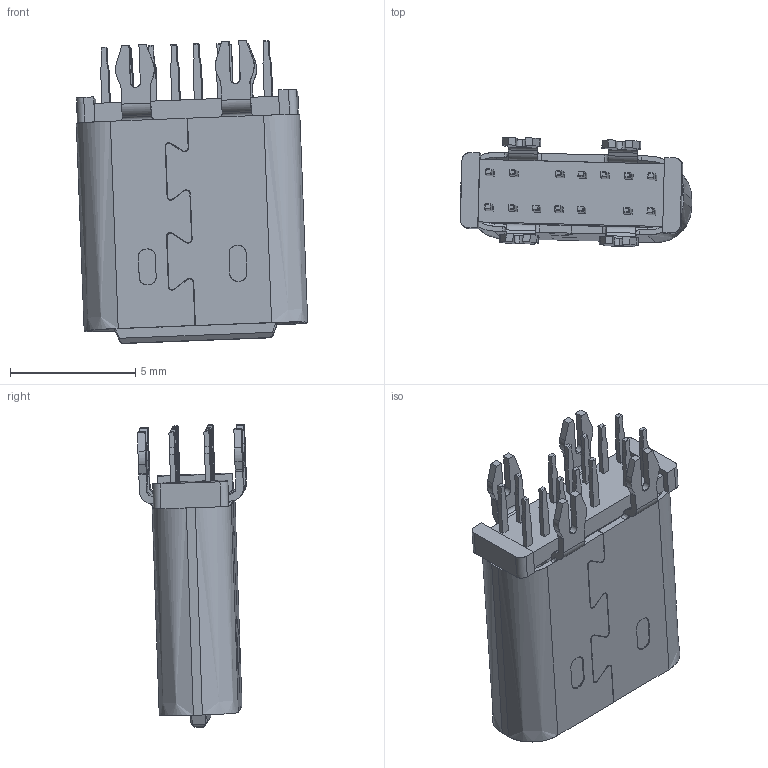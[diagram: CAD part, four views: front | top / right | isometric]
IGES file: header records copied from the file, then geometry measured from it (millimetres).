
Start section: SolidWorks IGES file using analytic representation for surfaces
Global section: file name: Z:\规格书系列\A品赞TYPE C\母座系列\GT-USB-7035\GT-USB-7035B\GT-USB-7035B.IGS; native system: SolidWorks 2021; preprocessor: SolidWorks 2021; author: Lenovo; date: 230304.170449; units: millimetre
Bounding box: 9.25 x 4.36 x 12.12 mm (x, y, z)
Surface area: 663.4 mm2 (no closed solid volume)
Topology: 0 solids, 0 shells, 707 faces, 5038 edges, 5038 vertices
Faces by surface type: bspline 707
